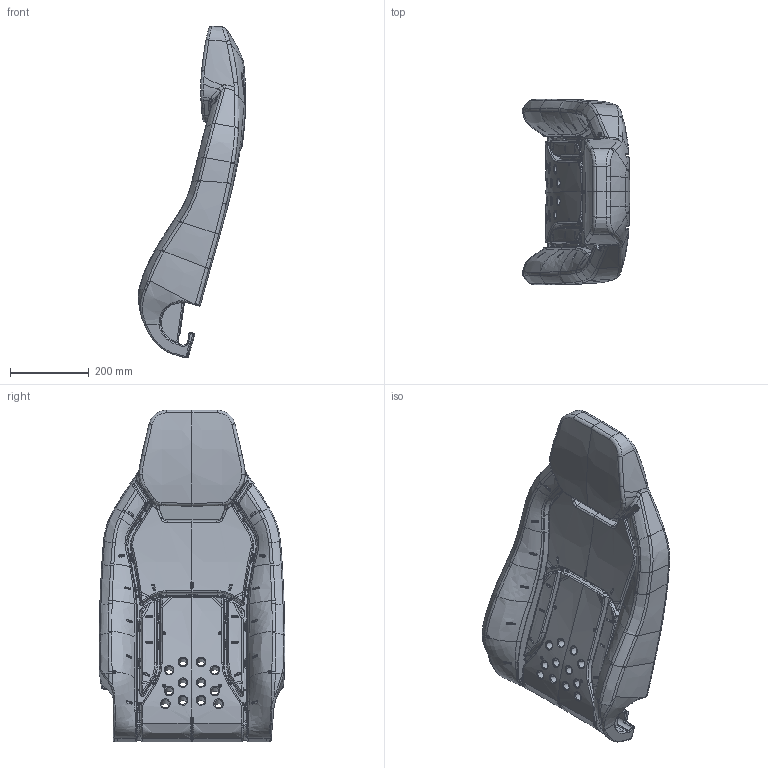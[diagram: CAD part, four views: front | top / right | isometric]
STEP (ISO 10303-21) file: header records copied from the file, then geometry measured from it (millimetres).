
FILE_DESCRIPTION(('CATIA V5 STEP Exchange'),'2;1');
FILE_NAME('C:\Users\langhechao\Desktop\SLT0011233-靠背泡沫总成.stp','2022-04-01T08:17:11+00:00',('none'),('none'),'CATIA Version 5 Release 20 GA (IN-10)','CATIA V5 STEP AP203 Edition 2','none');
FILE_SCHEMA(('AP203_CONFIGURATION_CONTROLLED_3D_DESIGN_OF_MECHANICAL_PARTS_AND_ASSEMBLIES_MIM_LF { 1 0 10303 403 2 1 2}'));
Products named in the file (16): 6800010HH26-C00 SLT0010666_6800010BH26-C00 SLT0010202; SLT0010702_SLT0010207; SLT0010681_SLT0010208; SLT0011233; SLT0010788; SLT0011235; SLT0011236; SLT0011237; SLT0011238; 6804420X2001A; SHT0011332; H5-6802105; H5-6802103; BPC0010111; BPC0010112; 322122805200
Assembly tree (20 placements, depth 5):
  6800010HH26-C00 SLT0010666_6800010BH26-C00 SLT0010202
    SLT0010702_SLT0010207
      SLT0010681_SLT0010208
        SLT0011233
          SLT0010788
          SLT0011235
          SLT0011236
          SLT0011237  x2
          SLT0011238
      6804420X2001A
        SHT0011332
        H5-6802105  x4
        H5-6802103  x2
        BPC0010111
        BPC0010112
      322122805200
Bounding box: 272.55 x 471.9 x 843.05 mm (x, y, z)
Volume: 19082710.4 mm3; surface area: 1357914.1 mm2
Topology: 6 solids, 6 shells, 2793 faces, 6804 edges, 3605 vertices
Faces by surface type: bspline 1515, cylinder 437, sphere 426, plane 180, torus 166, revolution 33, cone 28, extrusion 8
Entity records: 272446 total; most frequent: CARTESIAN_POINT 225243, ORIENTED_EDGE 12632, EDGE_CURVE 6316, B_SPLINE_CURVE_WITH_KNOTS 4633, DIRECTION 4069, VERTEX_POINT 3575, EDGE_LOOP 2815, ADVANCED_FACE 2769
